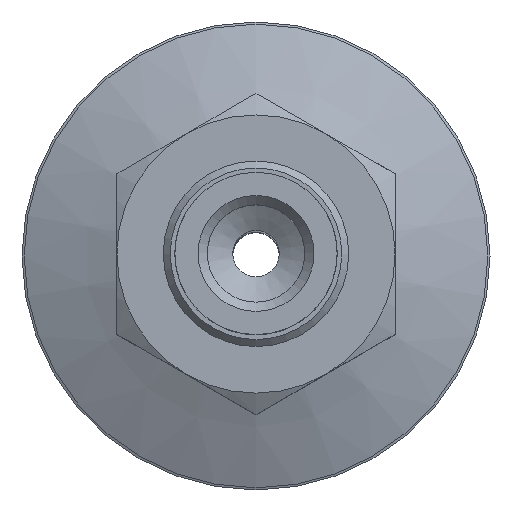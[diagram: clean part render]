
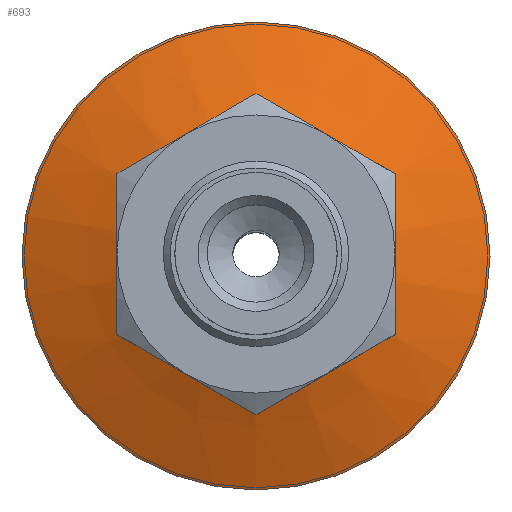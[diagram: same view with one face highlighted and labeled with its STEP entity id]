
A CAD part, top view. The second image highlights one B-rep face of the part: STEP entity #693.
In plain terms, the highlighted conical face has half-angle 67 degrees and reference radius 3.937 mm.
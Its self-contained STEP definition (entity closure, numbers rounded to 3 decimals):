
#693=ADVANCED_FACE('',(#1145,#1146),#1147,.T.);
#1145=FACE_BOUND('',#1602,.T.);
#1146=FACE_OUTER_BOUND('',#1603,.T.);
#1147=CONICAL_SURFACE('',#1604,3.937,1.169);
#1602=EDGE_LOOP('',(#2635));
#1603=EDGE_LOOP('',(#2636));
#1604=AXIS2_PLACEMENT_3D('',#2637,#2638,#2639);
#2635=ORIENTED_EDGE('',*,*,#2891,.T.);
#2636=ORIENTED_EDGE('',*,*,#2876,.T.);
#2637=CARTESIAN_POINT('',(0.0,0.,2.708));
#2638=DIRECTION('',(0.0,0.,-1.0));
#2639=DIRECTION('',(0.0,1.0,0.));
#2876=EDGE_CURVE('',#3298,#3298,#3299,.T.);
#2891=EDGE_CURVE('',#3328,#3328,#3329,.T.);
#3298=VERTEX_POINT('',#3994);
#3299=CIRCLE('',#3995,10.095);
#3328=VERTEX_POINT('',#4024);
#3329=CIRCLE('',#4025,4.688);
#3994=CARTESIAN_POINT('',(0.0,-10.095,0.095));
#3995=AXIS2_PLACEMENT_3D('',#4448,#4449,#4450);
#4024=CARTESIAN_POINT('',(0.0,4.688,2.39));
#4025=AXIS2_PLACEMENT_3D('',#4493,#4494,#4495);
#4448=CARTESIAN_POINT('',(0.0,0.,0.095));
#4449=DIRECTION('',(0.0,0.,1.0));
#4450=DIRECTION('',(0.0,-1.0,0.));
#4493=CARTESIAN_POINT('',(0.0,0.,2.39));
#4494=DIRECTION('',(0.0,0.,-1.0));
#4495=DIRECTION('',(0.0,1.0,0.));
